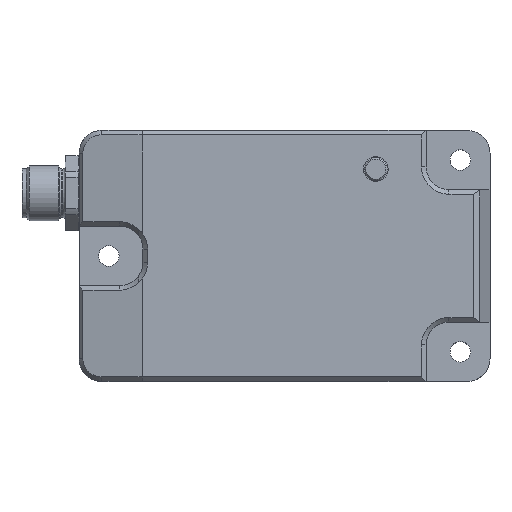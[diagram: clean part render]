
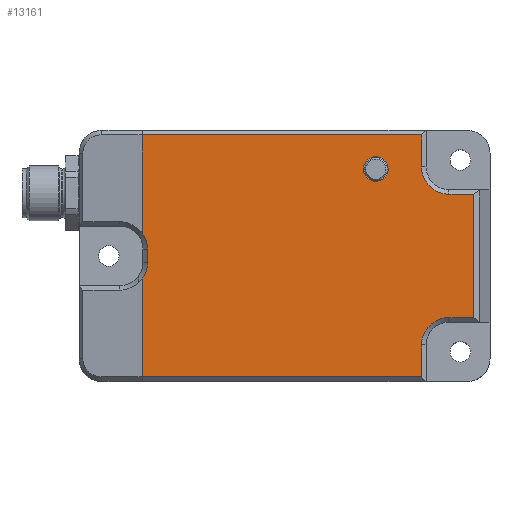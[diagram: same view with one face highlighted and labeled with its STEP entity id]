
A CAD part, top view. The second image highlights one B-rep face of the part: STEP entity #13161.
In plain terms, the highlighted planar face has unit normal (0, 0, 1).
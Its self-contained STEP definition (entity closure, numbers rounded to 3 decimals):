
#644=LINE('',#20080,#1655);
#645=LINE('',#20085,#1656);
#646=LINE('',#20087,#1657);
#647=LINE('',#20089,#1658);
#648=LINE('',#20093,#1659);
#649=LINE('',#20095,#1660);
#650=LINE('',#20097,#1661);
#651=LINE('',#20101,#1662);
#652=LINE('',#20103,#1663);
#653=LINE('',#20105,#1664);
#1655=VECTOR('',#16279,1000.);
#1656=VECTOR('',#16282,1000.);
#1657=VECTOR('',#16283,1000.);
#1658=VECTOR('',#16284,1000.);
#1659=VECTOR('',#16287,1000.);
#1660=VECTOR('',#16288,1000.);
#1661=VECTOR('',#16289,1000.);
#1662=VECTOR('',#16292,1000.);
#1663=VECTOR('',#16293,1000.);
#1664=VECTOR('',#16294,1000.);
#2362=PLANE('',#14067);
#2977=CIRCLE('',#14068,6.);
#2978=CIRCLE('',#14069,6.);
#2979=CIRCLE('',#14070,6.);
#2980=CIRCLE('',#14071,6.);
#2981=CIRCLE('',#14072,2.7);
#4790=ORIENTED_EDGE('',*,*,#7204,.T.);
#4791=ORIENTED_EDGE('',*,*,#7205,.T.);
#4792=ORIENTED_EDGE('',*,*,#7206,.T.);
#4793=ORIENTED_EDGE('',*,*,#7207,.T.);
#4794=ORIENTED_EDGE('',*,*,#7208,.T.);
#4795=ORIENTED_EDGE('',*,*,#7209,.T.);
#4796=ORIENTED_EDGE('',*,*,#7210,.T.);
#4797=ORIENTED_EDGE('',*,*,#7211,.T.);
#4798=ORIENTED_EDGE('',*,*,#7212,.T.);
#4799=ORIENTED_EDGE('',*,*,#7213,.T.);
#4800=ORIENTED_EDGE('',*,*,#7214,.T.);
#4801=ORIENTED_EDGE('',*,*,#7215,.T.);
#4802=ORIENTED_EDGE('',*,*,#7216,.T.);
#4803=ORIENTED_EDGE('',*,*,#7217,.T.);
#4804=ORIENTED_EDGE('',*,*,#7218,.T.);
#7204=EDGE_CURVE('',#8571,#8572,#644,.T.);
#7205=EDGE_CURVE('',#8572,#8573,#2977,.T.);
#7206=EDGE_CURVE('',#8573,#8574,#645,.T.);
#7207=EDGE_CURVE('',#8574,#8575,#646,.T.);
#7208=EDGE_CURVE('',#8575,#8576,#647,.T.);
#7209=EDGE_CURVE('',#8576,#8577,#2978,.T.);
#7210=EDGE_CURVE('',#8577,#8578,#648,.T.);
#7211=EDGE_CURVE('',#8578,#8579,#649,.T.);
#7212=EDGE_CURVE('',#8579,#8580,#650,.T.);
#7213=EDGE_CURVE('',#8580,#8581,#2979,.T.);
#7214=EDGE_CURVE('',#8581,#8582,#651,.T.);
#7215=EDGE_CURVE('',#8582,#8583,#652,.T.);
#7216=EDGE_CURVE('',#8583,#8584,#653,.T.);
#7217=EDGE_CURVE('',#8584,#8571,#2980,.T.);
#7218=EDGE_CURVE('',#8585,#8585,#2981,.T.);
#8571=VERTEX_POINT('',#20081);
#8572=VERTEX_POINT('',#20082);
#8573=VERTEX_POINT('',#20084);
#8574=VERTEX_POINT('',#20086);
#8575=VERTEX_POINT('',#20088);
#8576=VERTEX_POINT('',#20090);
#8577=VERTEX_POINT('',#20092);
#8578=VERTEX_POINT('',#20094);
#8579=VERTEX_POINT('',#20096);
#8580=VERTEX_POINT('',#20098);
#8581=VERTEX_POINT('',#20100);
#8582=VERTEX_POINT('',#20102);
#8583=VERTEX_POINT('',#20104);
#8584=VERTEX_POINT('',#20106);
#8585=VERTEX_POINT('',#20109);
#9672=EDGE_LOOP('',(#4790,#4791,#4792,#4793,#4794,#4795,#4796,#4797,#4798,
#4799,#4800,#4801,#4802,#4803));
#9673=EDGE_LOOP('',(#4804));
#10525=FACE_BOUND('',#9672,.T.);
#10526=FACE_BOUND('',#9673,.T.);
#13161=ADVANCED_FACE('',(#10525,#10526),#2362,.F.);
#14067=AXIS2_PLACEMENT_3D('',#20079,#16277,#16278);
#14068=AXIS2_PLACEMENT_3D('',#20083,#16280,#16281);
#14069=AXIS2_PLACEMENT_3D('',#20091,#16285,#16286);
#14070=AXIS2_PLACEMENT_3D('',#20099,#16290,#16291);
#14071=AXIS2_PLACEMENT_3D('',#20107,#16295,#16296);
#14072=AXIS2_PLACEMENT_3D('',#20108,#16297,#16298);
#16277=DIRECTION('',(0.,0.,-1.));
#16278=DIRECTION('',(-1.,0.,0.));
#16279=DIRECTION('',(0.,-1.,0.));
#16280=DIRECTION('',(0.,0.,-1.));
#16281=DIRECTION('',(-1.,0.,0.));
#16282=DIRECTION('',(0.,-1.,0.));
#16283=DIRECTION('',(1.,0.,0.));
#16284=DIRECTION('',(0.,1.,0.));
#16285=DIRECTION('',(0.,0.,-1.));
#16286=DIRECTION('',(-1.,0.,0.));
#16287=DIRECTION('',(1.,0.,0.));
#16288=DIRECTION('',(0.,1.,0.));
#16289=DIRECTION('',(-1.,0.,0.));
#16290=DIRECTION('',(0.,0.,-1.));
#16291=DIRECTION('',(-1.,0.,0.));
#16292=DIRECTION('',(0.,1.,0.));
#16293=DIRECTION('',(-1.,0.,0.));
#16294=DIRECTION('',(0.,-1.,0.));
#16295=DIRECTION('',(0.,0.,-1.));
#16296=DIRECTION('',(-1.,0.,0.));
#16297=DIRECTION('',(0.,0.,-1.));
#16298=DIRECTION('',(0.,-1.,0.));
#20079=CARTESIAN_POINT('',(45.,-27.5,30.));
#20080=CARTESIAN_POINT('',(-30.,-27.5,30.));
#20081=CARTESIAN_POINT('',(-30.,1.5,30.));
#20082=CARTESIAN_POINT('',(-30.,-1.5,30.));
#20083=CARTESIAN_POINT('',(-36.,-1.5,30.));
#20084=CARTESIAN_POINT('',(-31.2,-5.1,30.));
#20085=CARTESIAN_POINT('',(-31.2,82.159,30.));
#20086=CARTESIAN_POINT('',(-31.2,-26.5,30.));
#20087=CARTESIAN_POINT('',(31.,-26.5,30.));
#20088=CARTESIAN_POINT('',(30.,-26.5,30.));
#20089=CARTESIAN_POINT('',(30.,-27.5,30.));
#20090=CARTESIAN_POINT('',(30.,-19.5,30.));
#20091=CARTESIAN_POINT('',(36.,-19.5,30.));
#20092=CARTESIAN_POINT('',(36.,-13.5,30.));
#20093=CARTESIAN_POINT('',(45.,-13.5,30.));
#20094=CARTESIAN_POINT('',(41.452,-13.5,30.));
#20095=CARTESIAN_POINT('',(41.452,-27.5,30.));
#20096=CARTESIAN_POINT('',(41.452,13.5,30.));
#20097=CARTESIAN_POINT('',(45.,13.5,30.));
#20098=CARTESIAN_POINT('',(36.,13.5,30.));
#20099=CARTESIAN_POINT('',(36.,19.5,30.));
#20100=CARTESIAN_POINT('',(30.,19.5,30.));
#20101=CARTESIAN_POINT('',(30.,-27.5,30.));
#20102=CARTESIAN_POINT('',(30.,26.5,30.));
#20103=CARTESIAN_POINT('',(-31.2,26.5,30.));
#20104=CARTESIAN_POINT('',(-31.2,26.5,30.));
#20105=CARTESIAN_POINT('',(-31.2,82.159,30.));
#20106=CARTESIAN_POINT('',(-31.2,5.1,30.));
#20107=CARTESIAN_POINT('',(-36.,1.5,30.));
#20108=CARTESIAN_POINT('',(20.,19.,30.));
#20109=CARTESIAN_POINT('',(20.,16.3,30.));
